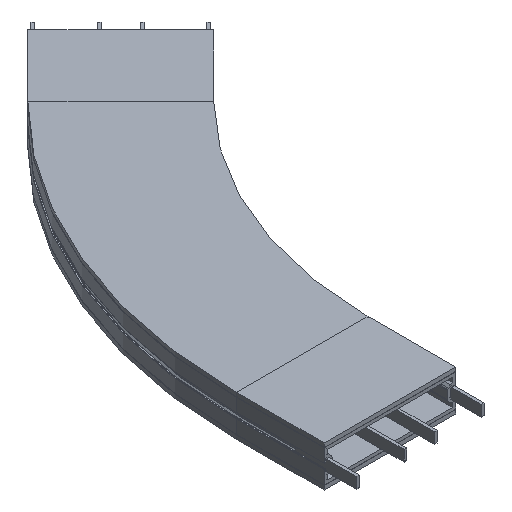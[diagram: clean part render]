
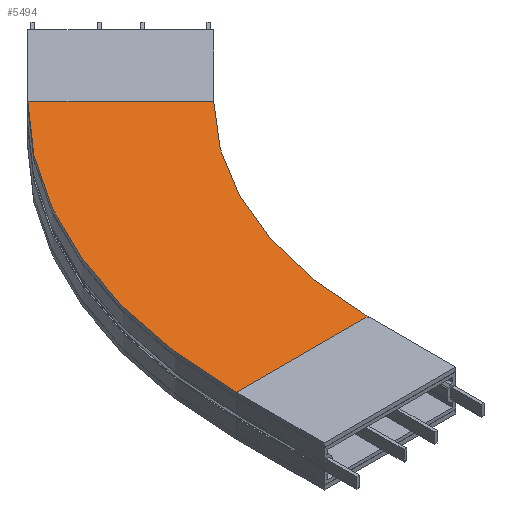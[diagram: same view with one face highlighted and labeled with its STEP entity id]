
A CAD part, isometric view. The second image highlights one B-rep face of the part: STEP entity #5494.
In plain terms, the highlighted planar face has unit normal (0, 0, 1).
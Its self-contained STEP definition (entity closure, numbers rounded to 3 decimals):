
#534 = LINE ( 'NONE', #1205, #9570 ) ;
#578 = EDGE_CURVE ( 'NONE', #1029, #7353, #6700, .T. ) ;
#606 = LINE ( 'NONE', #3467, #8085 ) ;
#1029 = VERTEX_POINT ( 'NONE', #9772 ) ;
#1205 = CARTESIAN_POINT ( 'NONE',  ( -813.173, 813.173, 46.5 ) ) ;
#1917 = AXIS2_PLACEMENT_3D ( 'NONE', #8940, #5618, #7215 ) ;
#2088 = ORIENTED_EDGE ( 'NONE', *, *, #3802, .T. ) ;
#2328 = CARTESIAN_POINT ( 'NONE',  ( 0., 0., 46.5 ) ) ;
#2398 = VERTEX_POINT ( 'NONE', #3194 ) ;
#2467 = FACE_OUTER_BOUND ( 'NONE', #7961, .T. ) ;
#2690 = DIRECTION ( 'NONE',  ( -1., 0., 0. ) ) ;
#2691 = DIRECTION ( 'NONE',  ( 0., 0., 1. ) ) ;
#2822 = CIRCLE ( 'NONE', #4139, 850. ) ;
#3194 = CARTESIAN_POINT ( 'NONE',  ( -850., 0., 46.5 ) ) ;
#3467 = CARTESIAN_POINT ( 'NONE',  ( -1150., 0., 46.5 ) ) ;
#3802 = EDGE_CURVE ( 'NONE', #4709, #1029, #534, .T. ) ;
#4139 = AXIS2_PLACEMENT_3D ( 'NONE', #7538, #2691, #8377 ) ;
#4709 = VERTEX_POINT ( 'NONE', #8819 ) ;
#5050 = AXIS2_PLACEMENT_3D ( 'NONE', #2328, #8637, #7808 ) ;
#5058 = DIRECTION ( 'NONE',  ( -0.707, 0.707, 0. ) ) ;
#5494 = ADVANCED_FACE ( 'NONE', ( #2467 ), #7163, .T. ) ;
#5618 = DIRECTION ( 'NONE',  ( 0., 0., 1. ) ) ;
#6218 = CARTESIAN_POINT ( 'NONE',  ( -1150., 0., 46.5 ) ) ;
#6700 = CIRCLE ( 'NONE', #5050, 1150. ) ;
#7163 = PLANE ( 'NONE',  #1917 ) ;
#7215 = DIRECTION ( 'NONE',  ( 1., 0., 0. ) ) ;
#7353 = VERTEX_POINT ( 'NONE', #6218 ) ;
#7538 = CARTESIAN_POINT ( 'NONE',  ( 0., 0., 46.5 ) ) ;
#7766 = EDGE_CURVE ( 'NONE', #2398, #7353, #606, .T. ) ;
#7808 = DIRECTION ( 'NONE',  ( -0.707, 0.707, 0. ) ) ;
#7961 = EDGE_LOOP ( 'NONE', ( #8881, #9960, #2088, #9801 ) ) ;
#8085 = VECTOR ( 'NONE', #2690, 1000. ) ;
#8377 = DIRECTION ( 'NONE',  ( -0.707, 0.707, 0. ) ) ;
#8637 = DIRECTION ( 'NONE',  ( 0., 0., 1. ) ) ;
#8819 = CARTESIAN_POINT ( 'NONE',  ( -601.041, 601.041, 46.5 ) ) ;
#8881 = ORIENTED_EDGE ( 'NONE', *, *, #7766, .F. ) ;
#8938 = EDGE_CURVE ( 'NONE', #4709, #2398, #2822, .T. ) ;
#8940 = CARTESIAN_POINT ( 'NONE',  ( -813.173, 813.173, 46.5 ) ) ;
#9570 = VECTOR ( 'NONE', #5058, 1000. ) ;
#9772 = CARTESIAN_POINT ( 'NONE',  ( -813.173, 813.173, 46.5 ) ) ;
#9801 = ORIENTED_EDGE ( 'NONE', *, *, #578, .T. ) ;
#9960 = ORIENTED_EDGE ( 'NONE', *, *, #8938, .F. ) ;
